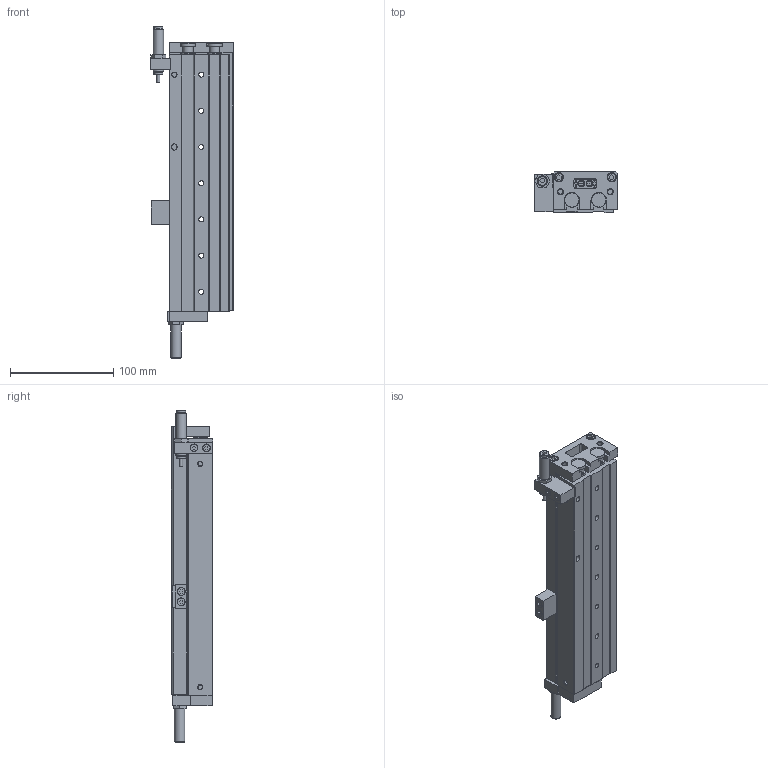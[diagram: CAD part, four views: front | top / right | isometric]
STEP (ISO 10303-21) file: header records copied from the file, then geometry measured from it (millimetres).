
FILE_DESCRIPTION( ( 'STEP AP214' ), '1' );
FILE_NAME( 'C:/Users/EMC02301/Desktop/ELS图纸/ELS16X125-S-B.stp', '2026-08-05T06:04:51', ( 'License CC BY-ND 4.0' ), ( 'CADENAS' ), ' ', 'PARTsolutions', ' ' );
FILE_SCHEMA( ( 'AUTOMOTIVE_DESIGN { 1 0 10303 214 1 1 1 1 }' ) );
Length unit declared in the file: millimetre
Products named in the file (6): ELS16X125-S-B(0)(); _ELS16X125-S-B(HX-07)(HX-07-1)(0-body); _ELS16X125-S-B(0-rod); _FJ-ELS16-B; _FJ-ELS16-B-(BS); _FJ-ELS16-B-(BF)
Assembly tree (5 placements, depth 2):
  ELS16X125-S-B(0)()
    _ELS16X125-S-B(HX-07)(HX-07-1)(0-body)
    _ELS16X125-S-B(0-rod)
    _FJ-ELS16-B
    _FJ-ELS16-B-(BS)
    _FJ-ELS16-B-(BF)
Bounding box: 80 x 40 x 321 mm (x, y, z)
Volume: 556477.3 mm3; surface area: 173627.5 mm2
Topology: 5 solids, 5 shells, 603 faces, 1436 edges, 949 vertices
Faces by surface type: plane 447, cylinder 124, cone 30, torus 2
Full cylindrical faces by diameter (mm): 3 x2, 4.134 x16, 4.917 x9, 5 x2, 5.1 x7, 5.5 x8, 6.5 x8, 6.933 x2, 7.267 x2, 7.333 x2, 7.667 x2, 8 x9, 8.5 x2, 8.6 x2, 9 x6, 10 x4, 10.5 x14, 14 x6, 16 x4, 18 x2
Entity records: 21394 total; most frequent: CARTESIAN_POINT 2807, DIRECTION 2776, ORIENTED_EDGE 2544, EDGE_CURVE 1272, LINE 986, VECTOR 986, VERTEX_POINT 926, AXIS2_PLACEMENT_3D 895
